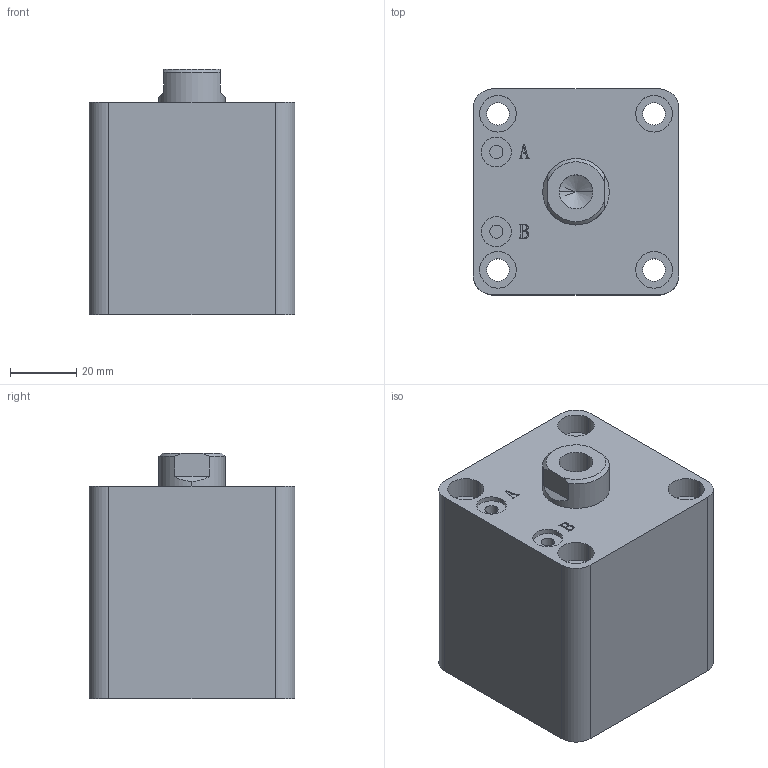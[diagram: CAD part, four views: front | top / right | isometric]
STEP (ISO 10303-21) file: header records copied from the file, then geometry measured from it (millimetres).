
FILE_DESCRIPTION (( 'STEP AP203' ), '1' );
FILE_NAME ('HTB-SDMA32-10N.STEP', '2019-10-07T11:37:55', ( '微软用户' ), ( '微软中国' ), 'SwSTEP 2.0', 'SolidWorks 2012', '' );
FILE_SCHEMA (( 'CONFIG_CONTROL_DESIGN' ));
Length unit declared in the file: millimetre
Products named in the file (3): HTB-SDMA32-10N; HTB-SDMA32-10N活塞杆; HTB-SDMA32-10掛极
Assembly tree (2 placements, depth 2):
  HTB-SDMA32-10N
    HTB-SDMA32-10掛极
    HTB-SDMA32-10N活塞杆
Bounding box: 62 x 62 x 74 mm (x, y, z)
Volume: 227796.9 mm3; surface area: 41306.7 mm2
Topology: 2 solids, 2 shells, 137 faces, 331 edges, 217 vertices
Faces by surface type: plane 65, cylinder 46, bspline 16, torus 6, cone 4
Entity records: 5070 total; most frequent: CARTESIAN_POINT 1576, ORIENTED_EDGE 658, DIRECTION 647, EDGE_CURVE 329, AXIS2_PLACEMENT_3D 232, VERTEX_POINT 217, LINE 183, VECTOR 183
